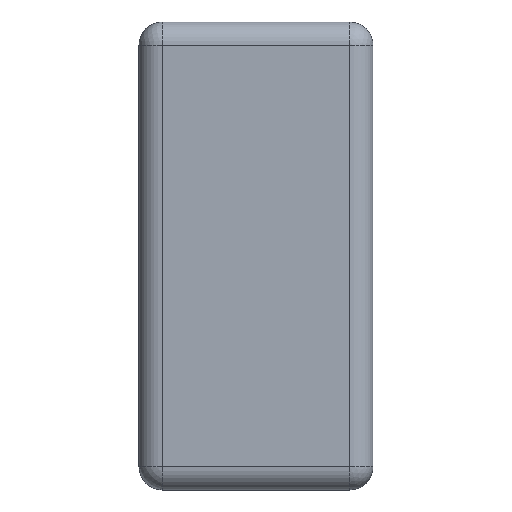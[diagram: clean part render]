
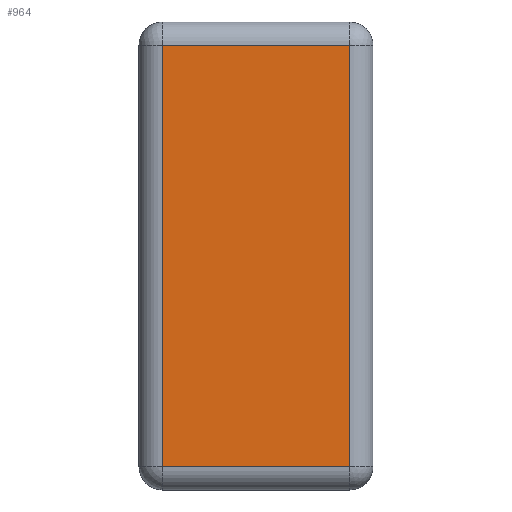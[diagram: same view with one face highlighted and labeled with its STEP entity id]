
A CAD part, left-side view. The second image highlights one B-rep face of the part: STEP entity #964.
In plain terms, the highlighted planar face has unit normal (-1, 0, 0).
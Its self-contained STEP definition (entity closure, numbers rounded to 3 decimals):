
#22=PLANE('',#1056);
#98=LINE('',#1515,#204);
#103=LINE('',#1534,#209);
#105=LINE('',#1546,#211);
#106=LINE('',#1548,#212);
#204=VECTOR('',#1216,10.);
#209=VECTOR('',#1239,10.);
#211=VECTOR('',#1255,10.);
#212=VECTOR('',#1258,10.);
#316=FACE_OUTER_BOUND('',#376,.T.);
#376=EDGE_LOOP('',(#787,#788,#789,#790));
#476=VERTEX_POINT('',#1500);
#479=VERTEX_POINT('',#1507);
#484=VERTEX_POINT('',#1523);
#488=VERTEX_POINT('',#1537);
#582=EDGE_CURVE('',#479,#476,#98,.T.);
#592=EDGE_CURVE('',#476,#484,#103,.T.);
#598=EDGE_CURVE('',#484,#488,#105,.T.);
#599=EDGE_CURVE('',#488,#479,#106,.T.);
#787=ORIENTED_EDGE('',*,*,#582,.F.);
#788=ORIENTED_EDGE('',*,*,#599,.F.);
#789=ORIENTED_EDGE('',*,*,#598,.F.);
#790=ORIENTED_EDGE('',*,*,#592,.F.);
#964=ADVANCED_FACE('',(#316),#22,.T.);
#1056=AXIS2_PLACEMENT_3D('',#1558,#1269,#1270);
#1216=DIRECTION('',(0.,1.,0.));
#1239=DIRECTION('',(0.,0.,1.));
#1255=DIRECTION('',(0.,-1.,0.));
#1258=DIRECTION('',(0.,0.,-1.));
#1269=DIRECTION('center_axis',(-1.,0.,0.));
#1270=DIRECTION('ref_axis',(0.,0.,1.));
#1500=CARTESIAN_POINT('',(-5.,-0.5,0.5));
#1507=CARTESIAN_POINT('',(-5.,-4.5,0.5));
#1515=CARTESIAN_POINT('',(-5.,-3.076,0.5));
#1523=CARTESIAN_POINT('',(-5.,-0.5,9.5));
#1534=CARTESIAN_POINT('',(-5.,-0.5,5.));
#1537=CARTESIAN_POINT('',(-5.,-4.5,9.5));
#1546=CARTESIAN_POINT('',(-5.,-3.076,9.5));
#1548=CARTESIAN_POINT('',(-5.,-4.5,5.));
#1558=CARTESIAN_POINT('Origin',(-5.,-1.5,10.));
